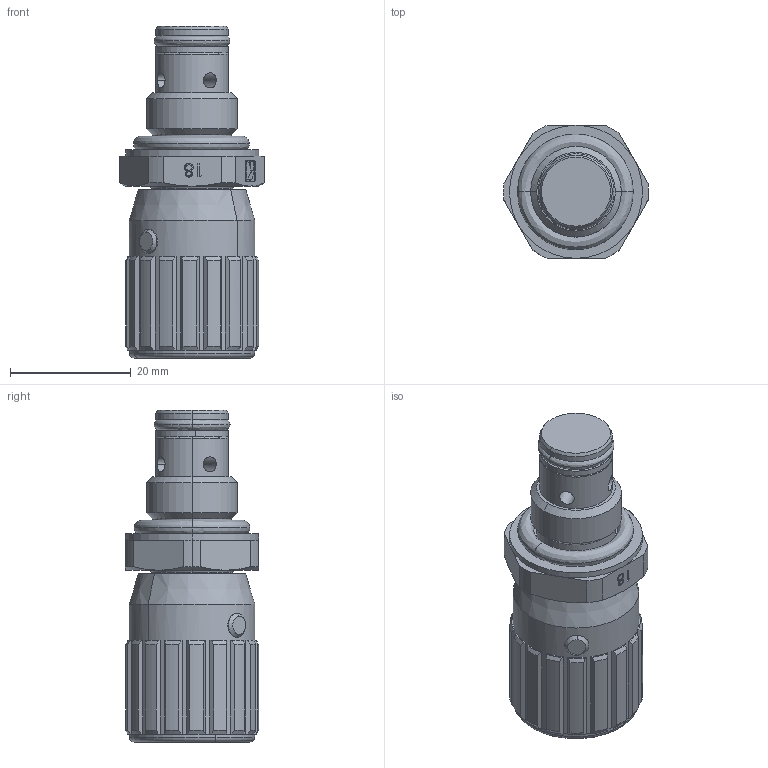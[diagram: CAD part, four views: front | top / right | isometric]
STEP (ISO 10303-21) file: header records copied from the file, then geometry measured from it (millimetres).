
FILE_DESCRIPTION (( 'STEP AP214' ), '1' );
FILE_NAME ('2247_2-18.STEP', '2014-06-11T12:10:17', ( '' ), ( '' ), 'SwSTEP 2.0', 'SolidWorks 2014', '' );
FILE_SCHEMA (( 'AUTOMOTIVE_DESIGN' ));
Length unit declared in the file: millimetre
Products named in the file (9): VolantinoFT1247_2-18_Tipo18; GranoFT1247_2-18_Tipo18; CappuccioFT1247_2-18_Tipo18; AnelloFT1247_2-18; OR3056; OR2018; DiscoFascetta2247_2-18; Corpo 2247_2-18; 2247_2-18
Assembly tree (8 placements, depth 2):
  2247_2-18
    Corpo 2247_2-18
    DiscoFascetta2247_2-18
    OR2018
    OR3056
    AnelloFT1247_2-18
    CappuccioFT1247_2-18_Tipo18
    GranoFT1247_2-18_Tipo18
    VolantinoFT1247_2-18_Tipo18
Bounding box: 23.99 x 22 x 54.9 mm (x, y, z)
Volume: 12654.7 mm3; surface area: 9507 mm2
Topology: 8 solids, 8 shells, 584 faces, 1511 edges, 984 vertices
Faces by surface type: plane 342, cylinder 95, cone 75, bspline 52, torus 20
Entity records: 24002 total; most frequent: CARTESIAN_POINT 6752, ORIENTED_EDGE 3022, DIRECTION 2729, EDGE_CURVE 1511, VERTEX_POINT 984, VECTOR 923, LINE 923, AXIS2_PLACEMENT_3D 903
